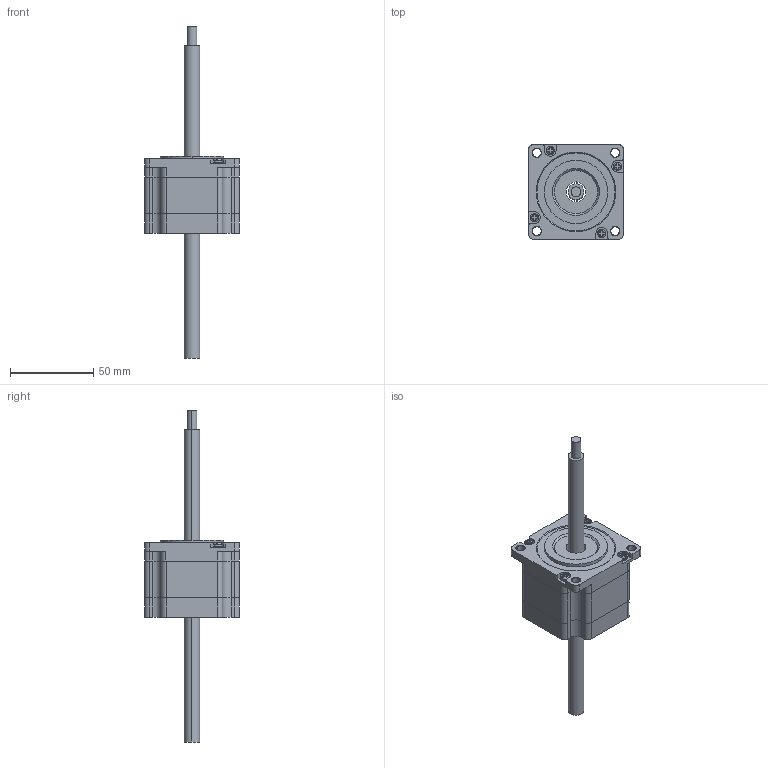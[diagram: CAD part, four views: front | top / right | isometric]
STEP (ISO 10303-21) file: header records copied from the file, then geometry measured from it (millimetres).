
FILE_DESCRIPTION (( 'STEP AP203' ), '1' );
FILE_NAME ('57SN1845-430-TR9.525£ª0.635-100-01.STEP', '2022-07-04T12:14:09', ( 'USER-' ), ( 'MS' ), 'SwSTEP 2.0', 'SolidWorks 2018', '' );
FILE_SCHEMA (( 'CONFIG_CONTROL_DESIGN' ));
Length unit declared in the file: millimetre
Products named in the file (1): 57SN1845-430-TR9.525＊0.635-100-01
Bounding box: 57 x 57 x 200 mm (x, y, z)
Volume: 139095.5 mm3; surface area: 35342.5 mm2
Topology: 8 solids, 8 shells, 254 faces, 686 edges, 452 vertices
Faces by surface type: plane 136, cylinder 82, cone 20, torus 16
Entity records: 9069 total; most frequent: CARTESIAN_POINT 2553, ORIENTED_EDGE 1372, DIRECTION 1320, EDGE_CURVE 686, AXIS2_PLACEMENT_3D 467, VERTEX_POINT 452, LINE 386, VECTOR 386
